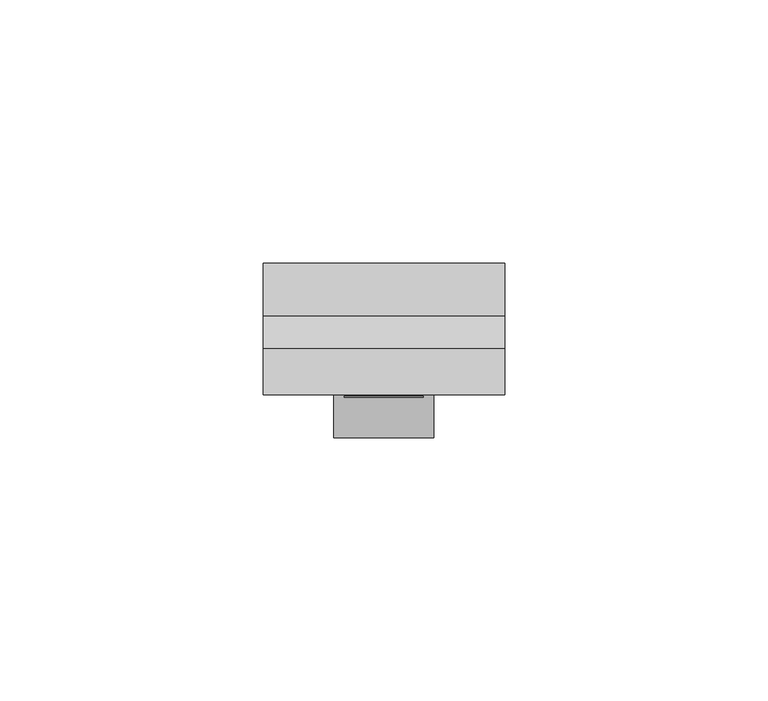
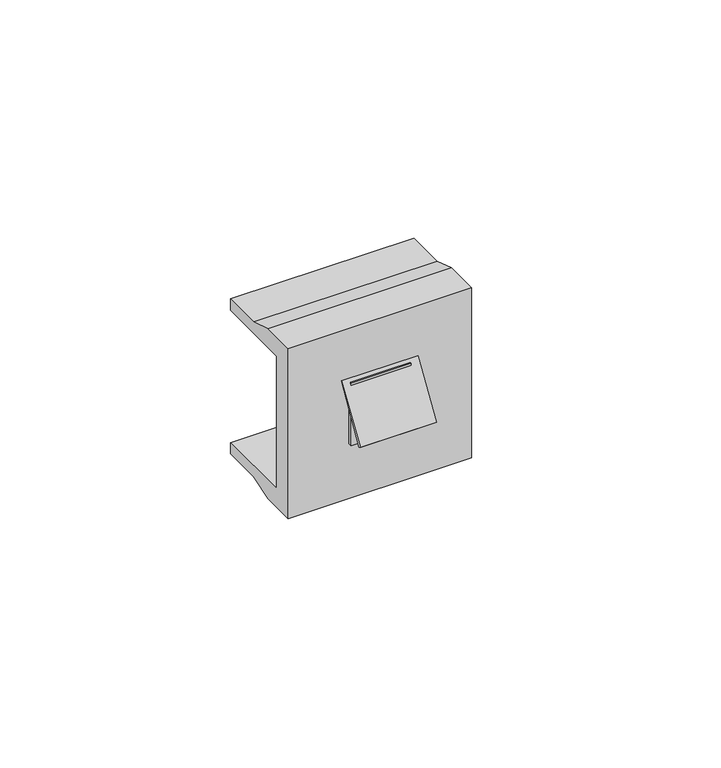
"""IFC4 building model written with IfcOpenShell, lengths in millimetres: proxy geometry, КНС_ТелефонныеРозетки_DKC : Белый."""

from ifc_helpers import new_model, si_unit, frame, origin, place, context, project, spatial, polyline, outline, extrude, faceted_brep, source, transform, mapped, element, save


def electrical_fixtures_b6375de4(model_context):
    return source(origin(), model_context, "Body", "SolidModel", [
        faceted_brep([(7.476911, -25.5, 8.25), (-7.523089, -25.5, 8.25), (-7.523089, -25.5, -8.25), (7.476911, -25.5, -8.25), (-2.6213903, -25.5, -1.0094154), (-4.523089, -25.5, -1.0094154), (-4.523089, -25.5, 4.0137937), (4.476911, -25.5, 4.0137937), (4.476911, -25.5, -1.0094154), (2.5752123, -25.5, -1.0094154), (2.5752123, -25.5, -2.6364348), (1.2084424, -25.5, -2.6364348), (1.2084424, -25.5, -3.7403811), (-1.2546204, -25.5, -3.7403811), (-1.2546204, -25.5, -2.6364348), (-2.6213903, -25.5, -2.6364348), (7.476911, -16.2913439, 8.25), (7.476911, -16.2913439, -8.25), (-7.523089, -16.2913439, -8.25), (-7.523089, -16.2913439, 8.25), (-4.523089, -20.0, -1.0094154), (-2.6213903, -20.0, -1.0094154), (-2.6213903, -20.0, -2.6364348), (-1.2546204, -20.0, -2.6364348), (-1.2546204, -20.0, -3.7403811), (1.2084424, -20.0, -3.7403811), (1.2084424, -20.0, -2.6364348), (2.5752123, -20.0, -2.6364348), (2.5752123, -20.0, -1.0094154), (4.476911, -20.0, -1.0094154), (4.476911, -20.0, 4.0137937), (-4.523089, -20.0, 4.0137937)], [[[0, 1, 2, 3], [4, 5, 6, 7, 8, 9, 10, 11, 12, 13, 14, 15]], [[16, 17, 18, 19]], [[1, 0, 16, 19]], [[2, 1, 19, 18]], [[3, 2, 18, 17]], [[0, 3, 17, 16]], [[20, 21, 22, 23, 24, 25, 26, 27, 28, 29, 30, 31]], [[21, 20, 5, 4]], [[22, 21, 4, 15]], [[23, 22, 15, 14]], [[24, 23, 14, 13]], [[25, 24, 13, 12]], [[26, 25, 12, 11]], [[27, 26, 11, 10]], [[28, 27, 10, 9]], [[29, 28, 9, 8]], [[30, 29, 8, 7]], [[31, 30, 7, 6]], [[20, 31, 6, 5]]]),
        extrude(outline(polyline([(-32.5, -3.7403811), (-33.1818268, -3.3467281), (-25.0, 9.25), (-32.5, -3.7403811)])), frame((-9.546178, 0.0, 0.0), z_axis=(1.0, 0.0, 0.0), x_axis=(0.0, 1.0, 0.0)), (0.0, 0.0, 1.0), 19.046178),
        extrude(outline(polyline([(-32.5, -3.7403811), (-33.1818268, -3.3467281), (-25.0, 9.25), (-32.5, -3.7403811)])), frame((-9.5, 0.0, 0.0), z_axis=(1.0, 0.0, 0.0), x_axis=(0.0, 1.0, 0.0)), (0.0, 0.0, 1.0), 19.0),
        faceted_brep([(7.476911, -25.5, 8.25), (-7.476911, -25.5, 8.25), (-7.476911, -25.5, -8.25), (7.476911, -25.5, -8.25), (1.2084424, -25.5, -3.7403811), (-1.2084424, -25.5, -3.7403811), (-1.2084424, -25.5, -2.6364348), (-2.5752123, -25.5, -2.6364348), (-2.5752123, -25.5, -1.0094154), (-4.476911, -25.5, -1.0094154), (-4.476911, -25.5, 4.0137937), (4.476911, -25.5, 4.0137937), (4.476911, -25.5, -1.0094154), (2.5752123, -25.5, -1.0094154), (2.5752123, -25.5, -2.6364348), (1.2084424, -25.5, -2.6364348), (7.476911, -16.2913439, 8.25), (7.476911, -16.2913439, -8.25), (-7.476911, -16.2913439, -8.25), (-7.476911, -16.2913439, 8.25), (4.476911, -20.0, -1.0094154), (4.476911, -20.0, 4.0137937), (-4.476911, -20.0, 4.0137937), (-4.476911, -20.0, -1.0094154), (-2.5752123, -20.0, -1.0094154), (-2.5752123, -20.0, -2.6364348), (-1.2084424, -20.0, -2.6364348), (-1.2084424, -20.0, -3.7403811), (1.2084424, -20.0, -3.7403811), (1.2084424, -20.0, -2.6364348), (2.5752123, -20.0, -2.6364348), (2.5752123, -20.0, -1.0094154)], [[[0, 1, 2, 3], [4, 5, 6, 7, 8, 9, 10, 11, 12, 13, 14, 15]], [[16, 17, 18, 19]], [[1, 0, 16, 19]], [[2, 1, 19, 18]], [[3, 2, 18, 17]], [[0, 3, 17, 16]], [[20, 21, 22, 23, 24, 25, 26, 27, 28, 29, 30, 31]], [[28, 27, 5, 4]], [[29, 28, 4, 15]], [[30, 29, 15, 14]], [[31, 30, 14, 13]], [[20, 31, 13, 12]], [[21, 20, 12, 11]], [[22, 21, 11, 10]], [[23, 22, 10, 9]], [[24, 23, 9, 8]], [[25, 24, 8, 7]], [[26, 25, 7, 6]], [[27, 26, 6, 5]]]),
        faceted_brep([(23.0, -25.0, 22.5), (-23.0, -25.0, 22.5), (-23.0, -25.0, -22.5), (23.0, -25.0, -22.5), (-2.6213903, -25.0, -1.0094154), (-4.523089, -25.0, -1.0094154), (-4.523089, -25.0, 4.0137937), (4.476911, -25.0, 4.0137937), (4.476911, -25.0, -1.0094154), (2.5752123, -25.0, -1.0094154), (2.5752123, -25.0, -2.6364348), (1.2084424, -25.0, -2.6364348), (1.2084424, -25.0, -3.7403811), (-1.2546204, -25.0, -3.7403811), (-1.2546204, -25.0, -2.6364348), (-2.6213903, -25.0, -2.6364348), (23.0, 0.0, 20.5), (23.0, 0.0, 17.5), (-23.0, 0.0, 17.5), (-23.0, 0.0, 20.5), (23.0, 0.0, -17.5), (23.0, 0.0, -20.5), (-23.0, 0.0, -20.5), (-23.0, 0.0, -17.5), (23.0, -16.2913439, 22.5), (-23.0, -16.2913439, 22.5), (-23.0, -10.0, 20.5), (-23.0, -20.0, 17.5), (-23.0, -20.0, -17.5), (-23.0, -10.0, -20.5), (-23.0, -16.2913439, -22.5), (23.0, -16.2913439, -22.5), (23.0, -10.0, -20.5), (23.0, -20.0, -17.5), (23.0, -20.0, 17.5), (23.0, -10.0, 20.5), (-4.523089, -20.0, -1.0094154), (-2.6213903, -20.0, -1.0094154), (-2.6213903, -20.0, -2.6364348), (-1.2546204, -20.0, -2.6364348), (-1.2546204, -20.0, -3.7403811), (1.2084424, -20.0, -3.7403811), (1.2084424, -20.0, -2.6364348), (2.5752123, -20.0, -2.6364348), (2.5752123, -20.0, -1.0094154), (4.476911, -20.0, -1.0094154), (4.476911, -20.0, 4.0137937), (-4.523089, -20.0, 4.0137937)], [[[0, 1, 2, 3], [4, 5, 6, 7, 8, 9, 10, 11, 12, 13, 14, 15]], [[16, 17, 18, 19]], [[20, 21, 22, 23]], [[1, 0, 24, 25]], [[2, 1, 25, 26, 19, 18, 27, 28, 23, 22, 29, 30]], [[3, 2, 30, 31]], [[0, 3, 31, 32, 21, 20, 33, 34, 17, 16, 35, 24]], [[28, 33, 20, 23]], [[34, 27, 18, 17]], [[33, 28, 27, 34], [36, 37, 38, 39, 40, 41, 42, 43, 44, 45, 46, 47]], [[26, 35, 16, 19]], [[35, 26, 25, 24]], [[32, 29, 22, 21]], [[29, 32, 31, 30]], [[36, 5, 4, 37]], [[37, 4, 15, 38]], [[38, 15, 14, 39]], [[39, 14, 13, 40]], [[40, 13, 12, 41]], [[41, 12, 11, 42]], [[42, 11, 10, 43]], [[43, 10, 9, 44]], [[44, 9, 8, 45]], [[45, 8, 7, 46]], [[46, 7, 6, 47]], [[5, 36, 47, 6]]]),
    ])


if __name__ == "__main__":
    model = new_model("IFC4")
    model_context = context("Model", 3, world=origin())
    ifc_project = project(units=[si_unit("LENGTHUNIT", "METRE", prefix="MILLI")], contexts=[model_context])
    site = spatial("IfcSite", under=ifc_project)
    building = spatial("IfcBuilding", under=site)
    placement = place(None, origin())
    electrical_fixtures_shape = electrical_fixtures_b6375de4(model_context)
    element("IfcBuildingElementProxy", 1, Name="КНС_ТелефонныеРозетки_DKC : Белый", ObjectType="КНС_ТелефонныеРозетки_DKC : Белый", at=placement, inside=building, context=model_context, shape_type="MappedRepresentation", body=[
        mapped(electrical_fixtures_shape, transform((0.0, 0.0, 0.0), x_axis=(1.0, 0.0, 0.0), y_axis=(0.0, 1.0, 0.0), z_axis=(0.0, 0.0, 1.0))),
    ])
    save(model, "model.ifc")
